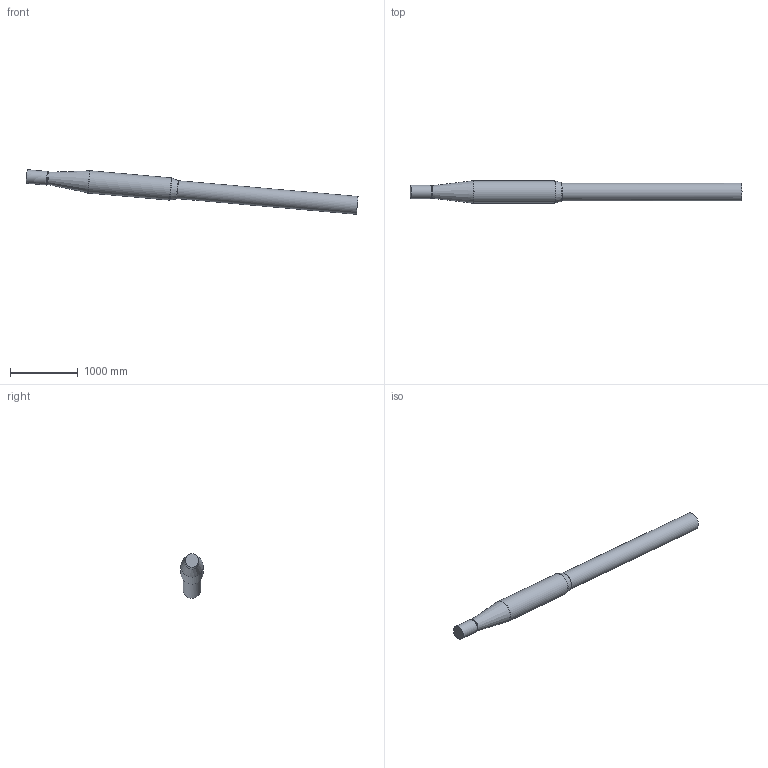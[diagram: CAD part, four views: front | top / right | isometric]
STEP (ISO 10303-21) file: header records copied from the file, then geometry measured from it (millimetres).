
FILE_DESCRIPTION(/* description */ (''),/* implementation_level */ '2;1');
FILE_NAME(/* name */ '14x22_sting_in_tunnel_5deg_mod.stp',/* time_stamp */ '2022-08-22T14:14:11-04:00',/* author */ (''),/* organization */ (''),/* preprocessor_version */ 'ST-DEVELOPER v16',/* originating_system */ 'SIEMENS PLM Software NX 10.0',/* authorisation */ '');
FILE_SCHEMA (('AP203_CONFIGURATION_CONTROLLED_3D_DESIGN_OF_MECHANICAL_PARTS_AND_ASSEMBLIES_MIM_LF { 1 0 10303 403 2 1 2}'));
Length unit declared in the file: millimetre
Products named in the file (1): sbry4E4082DFvl20
Bounding box: 4892.43 x 328.82 x 657.68 mm (x, y, z)
Volume: 297479167.3 mm3; surface area: 4332914.5 mm2
Topology: 1 solids, 1 shells, 15 faces, 34 edges, 21 vertices
Faces by surface type: torus 6, cone 4, cylinder 3, plane 2
Full cylindrical faces by diameter (mm): 200.66 x1, 264.16 x1, 328.803 x1
Entity records: 386 total; most frequent: DIRECTION 60, CARTESIAN_POINT 44, AXIS2_PLACEMENT_3D 30, EDGE_LOOP 28, ORIENTED_EDGE 28, FACE_BOUND 26, ADVANCED_FACE 15, VERTEX_POINT 14
